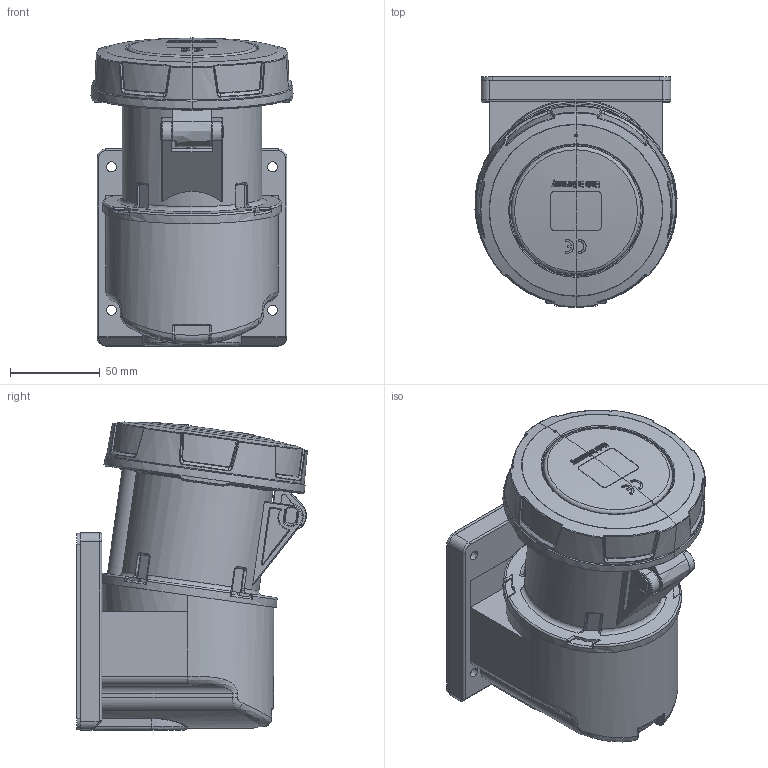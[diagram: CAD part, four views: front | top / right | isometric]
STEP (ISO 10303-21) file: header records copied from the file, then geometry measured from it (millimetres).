
FILE_DESCRIPTION((''),'2;1');
FILE_NAME('3641_DUMMY_SW0001','2017-11-03T',('gisse'),('MENNEKES'),'PRO/ENGINEER BY PARAMETRIC TECHNOLOGY CORPORATION, 2015440','PRO/ENGINEER BY PARAMETRIC TECHNOLOGY CORPORATION, 2015440','');
FILE_SCHEMA(('AUTOMOTIVE_DESIGN { 1 0 10303 214 1 1 1 1 }'));
Length unit declared in the file: millimetre
Products named in the file (1): 3641_DUMMY_SW0001
Bounding box: 112.74 x 128.75 x 171.92 mm (x, y, z)
Volume: 1304431.5 mm3; surface area: 102848.4 mm2
Topology: 1 solids, 1 shells, 1090 faces, 2802 edges, 1746 vertices
Faces by surface type: plane 270, bspline 231, cylinder 198, extrusion 183, cone 80, torus 79, sphere 49
Entity records: 65332 total; most frequent: CARTESIAN_POINT 20741, ORIENTED_EDGE 5600, DIRECTION 4233, PRESENTATION_STYLE_ASSIGNMENT 4067, STYLED_ITEM 2984, CURVE_STYLE 2983, EDGE_CURVE 2800, VERTEX_POINT 1746
